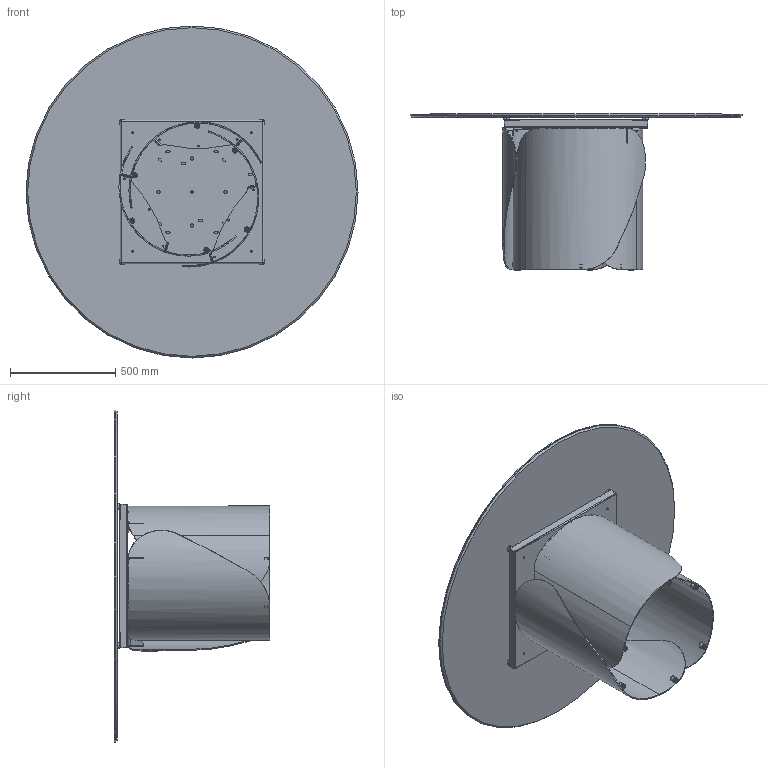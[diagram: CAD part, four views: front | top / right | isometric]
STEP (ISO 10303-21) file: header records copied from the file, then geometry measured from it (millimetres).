
FILE_DESCRIPTION (( 'STEP AP203' ), '1' );
FILE_NAME ('ON07C.STEP', '2024-08-06T13:30:39', ( '' ), ( '' ), 'SwSTEP 2.0', 'SolidWorks 2022', '' );
FILE_SCHEMA (( 'CONFIG_CONTROL_DESIGN' ));
Length unit declared in the file: millimetre
Products named in the file (15): 434070-00-PIEDINO TPV GOMMA NERO D. 30x8max18_filo estetico; TTAV0801-02-TELAIO UNIVERSALE TONDO; K1XCMXX-00-Piani Rotondi in ceramica_D.1580; OND000000_01-00-PIASTRA SUPERIORE BASE ONDA; PIEDINO PER ONDA; COLLO TELAIO UNIVERSALE TTAV0801 CON FERRAMENTA_MTG TOP CRISTALLO VERNICIATO-CERAMICA; OND000000-03-ONDA BASE GREZZA; M8xXXmm_M8x20mm; ON07C; OND000000_02-00-CILINDRO DI FISSAGGIO Ø25X17 M8; TTAV0801-02-TELAIO UNIVERSALE TONDO-VASSOIO; TTAV0801 TELAIO UNIVERSALE TONDO-PIASTRINA; OND000000_03-00-LAMIERA CURVATA PRINCIPALE_OND00000X-00-ONDA BASE GREZZA PROTOTIPO; rondella M8_8X24; COLLO BASE ONDA SINGOLA CON FERRAMENTA
Assembly tree (46 placements, depth 4):
  ON07C
    COLLO TELAIO UNIVERSALE TTAV0801 CON FERRAMENTA_MTG TOP CRISTALLO VERNICIATO-CERAMICA
      TTAV0801-02-TELAIO UNIVERSALE TONDO
        TTAV0801-02-TELAIO UNIVERSALE TONDO-VASSOIO
        TTAV0801 TELAIO UNIVERSALE TONDO-PIASTRINA  x4
      434070-00-PIEDINO TPV GOMMA NERO D. 30x8max18_filo estetico  x4
    COLLO BASE ONDA SINGOLA CON FERRAMENTA  x3
      OND000000-03-ONDA BASE GREZZA
        OND000000_03-00-LAMIERA CURVATA PRINCIPALE_OND00000X-00-ONDA BASE GREZZA PROTOTIPO
        OND000000_01-00-PIASTRA SUPERIORE BASE ONDA
        OND000000_02-00-CILINDRO DI FISSAGGIO Ø25X17 M8  x2
      PIEDINO PER ONDA
    rondella M8_8X24  x12
    M8xXXmm_M8x20mm  x12
    K1XCMXX-00-Piani Rotondi in ceramica_D.1580
Bounding box: 1580 x 742 x 1580 mm (x, y, z)
Volume: 41993241.6 mm3; surface area: 12538919.5 mm2
Topology: 63 solids, 63 shells, 1551 faces, 3661 edges, 2272 vertices
Faces by surface type: plane 628, cylinder 545, torus 184, cone 134, bspline 60
Entity records: 19476 total; most frequent: CARTESIAN_POINT 4535, DIRECTION 2683, ORIENTED_EDGE 2552, EDGE_CURVE 1276, AXIS2_PLACEMENT_3D 980, VERTEX_POINT 822, LINE 723, VECTOR 723
